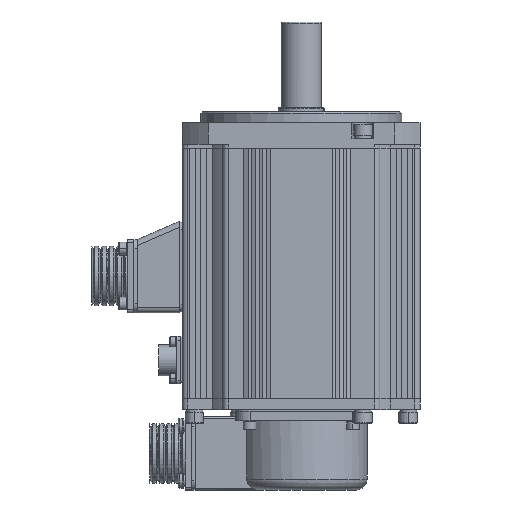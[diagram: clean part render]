
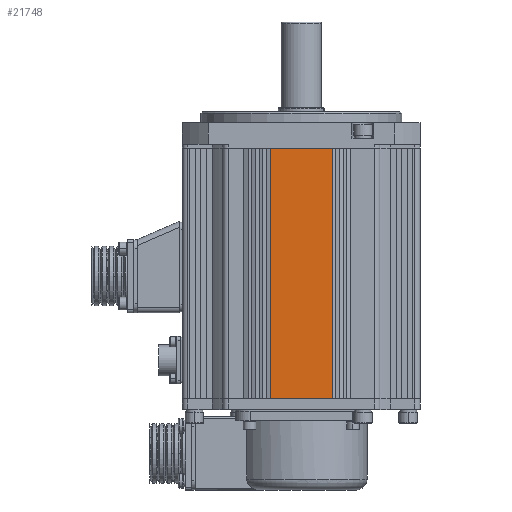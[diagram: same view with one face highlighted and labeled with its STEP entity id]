
A CAD part, front view. The second image highlights one B-rep face of the part: STEP entity #21748.
In plain terms, the highlighted planar face has unit normal (0, -1, 0) as drawn and (0, 1, 0) by its records, which use the part's own axes.
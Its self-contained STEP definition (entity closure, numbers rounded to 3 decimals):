
#14821=DIRECTION('',(0.,0.,-1.));
#14822=VECTOR('',#14821,137.);
#14823=CARTESIAN_POINT('',(-17.,65.,137.));
#14824=LINE('',#14823,#14822);
#14825=DIRECTION('',(1.,0.,0.));
#14826=VECTOR('',#14825,34.);
#14827=CARTESIAN_POINT('',(-17.,65.,0.));
#14828=LINE('',#14827,#14826);
#14833=DIRECTION('',(0.,0.,-1.));
#14834=VECTOR('',#14833,137.);
#14835=CARTESIAN_POINT('',(17.,65.,137.));
#14836=LINE('',#14835,#14834);
#15585=DIRECTION('',(1.,0.,0.));
#15586=VECTOR('',#15585,34.);
#15587=CARTESIAN_POINT('',(-17.,65.,137.));
#15588=LINE('',#15587,#15586);
#16908=CARTESIAN_POINT('',(17.,65.,0.));
#16909=VERTEX_POINT('',#16908);
#16910=CARTESIAN_POINT('',(-17.,65.,0.));
#16911=VERTEX_POINT('',#16910);
#17769=CARTESIAN_POINT('',(-17.,65.,137.));
#17770=VERTEX_POINT('',#17769);
#17771=CARTESIAN_POINT('',(17.,65.,137.));
#17772=VERTEX_POINT('',#17771);
#21735=CARTESIAN_POINT('',(65.,65.,0.));
#21736=DIRECTION('',(0.,1.,0.));
#21737=DIRECTION('',(-1.,0.,0.));
#21738=AXIS2_PLACEMENT_3D('',#21735,#21736,#21737);
#21739=PLANE('',#21738);
#21740=ORIENTED_EDGE('',*,*,#21720,.T.);
#21741=ORIENTED_EDGE('',*,*,#17970,.T.);
#21743=ORIENTED_EDGE('',*,*,#21742,.F.);
#21745=ORIENTED_EDGE('',*,*,#21744,.F.);
#21746=EDGE_LOOP('',(#21740,#21741,#21743,#21745));
#21747=FACE_OUTER_BOUND('',#21746,.F.);
#21748=ADVANCED_FACE('',(#21747),#21739,.T.);
#17970=EDGE_CURVE('',#16911,#16909,#14828,.T.);
#21720=EDGE_CURVE('',#17770,#16911,#14824,.T.);
#21742=EDGE_CURVE('',#17772,#16909,#14836,.T.);
#21744=EDGE_CURVE('',#17770,#17772,#15588,.T.);
